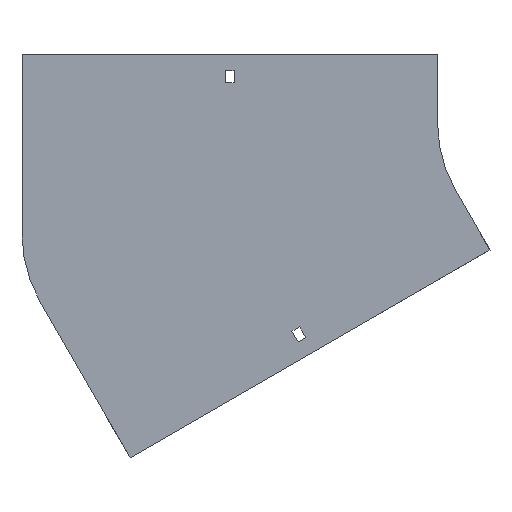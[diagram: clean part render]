
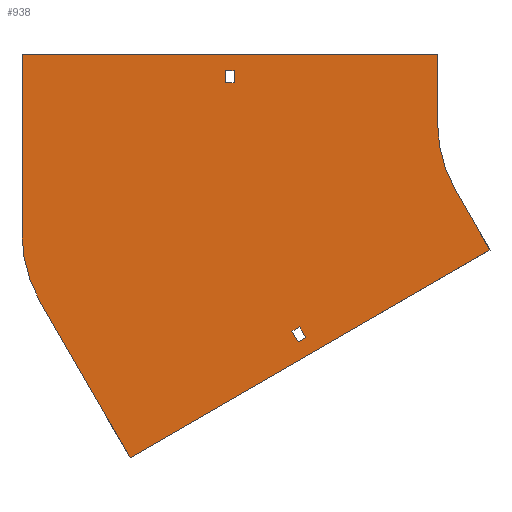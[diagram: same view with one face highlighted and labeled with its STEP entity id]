
A CAD part, front view. The second image highlights one B-rep face of the part: STEP entity #938.
In plain terms, the highlighted planar face has unit normal (0, -1, 0).
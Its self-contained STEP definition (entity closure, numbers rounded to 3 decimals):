
#3 = ORIENTED_EDGE ( 'NONE', *, *, #321, .T. ) ;
#10 = VECTOR ( 'NONE', #705, 1000. ) ;
#49 = DIRECTION ( 'NONE',  ( -1., 0., 0. ) ) ;
#54 = CARTESIAN_POINT ( 'NONE',  ( -202.053, 0., -160.534 ) ) ;
#67 = ORIENTED_EDGE ( 'NONE', *, *, #1046, .F. ) ;
#69 = LINE ( 'NONE', #388, #1867 ) ;
#70 = CARTESIAN_POINT ( 'NONE',  ( -100., 0., 50. ) ) ;
#71 = VECTOR ( 'NONE', #188, 1000. ) ;
#73 = EDGE_CURVE ( 'NONE', #313, #1581, #506, .T. ) ;
#75 = DIRECTION ( 'NONE',  ( 0.866, 0., 0.5 ) ) ;
#78 = PLANE ( 'NONE',  #1946 ) ;
#82 = CARTESIAN_POINT ( 'NONE',  ( -200.924, 0., -149.49 ) ) ;
#83 = CARTESIAN_POINT ( 'NONE',  ( -248.75, 0., 38. ) ) ;
#89 = VERTEX_POINT ( 'NONE', #1771 ) ;
#106 = LINE ( 'NONE', #1290, #515 ) ;
#107 = LINE ( 'NONE', #1327, #1535 ) ;
#116 = DIRECTION ( 'NONE',  ( 1., 0., 0. ) ) ;
#134 = DIRECTION ( 'NONE',  ( 0.5, 0., -0.866 ) ) ;
#146 = CARTESIAN_POINT ( 'NONE',  ( -206.553, 0., -152.74 ) ) ;
#154 = EDGE_CURVE ( 'NONE', #817, #1584, #1075, .T. ) ;
#162 = VERTEX_POINT ( 'NONE', #214 ) ;
#164 = EDGE_LOOP ( 'NONE', ( #628, #798, #1325, #1123, #1838, #1211, #67, #845 ) ) ;
#174 = CARTESIAN_POINT ( 'NONE',  ( -404., 0., -81.457 ) ) ;
#177 = DIRECTION ( 'NONE',  ( -0.866, 0., -0.5 ) ) ;
#181 = LINE ( 'NONE', #939, #1254 ) ;
#188 = DIRECTION ( 'NONE',  ( -0.5, 0., 0.866 ) ) ;
#214 = CARTESIAN_POINT ( 'NONE',  ( -202.053, 0., -160.534 ) ) ;
#223 = FACE_BOUND ( 'NONE', #585, .T. ) ;
#265 = CARTESIAN_POINT ( 'NONE',  ( -248.75, 0., 29. ) ) ;
#273 = CARTESIAN_POINT ( 'NONE',  ( -206.553, 0., -152.74 ) ) ;
#302 = ORIENTED_EDGE ( 'NONE', *, *, #1224, .T. ) ;
#313 = VERTEX_POINT ( 'NONE', #1573 ) ;
#318 = ORIENTED_EDGE ( 'NONE', *, *, #1398, .F. ) ;
#321 = EDGE_CURVE ( 'NONE', #1584, #368, #69, .T. ) ;
#325 = LINE ( 'NONE', #146, #440 ) ;
#355 = EDGE_CURVE ( 'NONE', #712, #1295, #325, .T. ) ;
#368 = VERTEX_POINT ( 'NONE', #481 ) ;
#388 = CARTESIAN_POINT ( 'NONE',  ( -255.25, 0., 29. ) ) ;
#402 = DIRECTION ( 'NONE',  ( -0.866, 0., -0.5 ) ) ;
#415 = VECTOR ( 'NONE', #116, 1000. ) ;
#440 = VECTOR ( 'NONE', #177, 1000. ) ;
#443 = DIRECTION ( 'NONE',  ( 0., -1., 0. ) ) ;
#480 = VERTEX_POINT ( 'NONE', #1417 ) ;
#481 = CARTESIAN_POINT ( 'NONE',  ( -255.25, 0., 38. ) ) ;
#487 = CARTESIAN_POINT ( 'NONE',  ( -255.25, 0., 29. ) ) ;
#495 = ORIENTED_EDGE ( 'NONE', *, *, #1929, .T. ) ;
#506 = CIRCLE ( 'NONE', #1604, 100. ) ;
#515 = VECTOR ( 'NONE', #831, 1000. ) ;
#520 = VERTEX_POINT ( 'NONE', #1261 ) ;
#534 = DIRECTION ( 'NONE',  ( 0., 0., 1. ) ) ;
#536 = EDGE_CURVE ( 'NONE', #1692, #712, #1869, .T. ) ;
#539 = CARTESIAN_POINT ( 'NONE',  ( -206.553, 0., -152.74 ) ) ;
#552 = DIRECTION ( 'NONE',  ( 0., 0., -1. ) ) ;
#559 = DIRECTION ( 'NONE',  ( 0.5, 0., -0.866 ) ) ;
#579 = DIRECTION ( 'NONE',  ( 0., 0., 1. ) ) ;
#585 = EDGE_LOOP ( 'NONE', ( #1701, #318, #1618, #1146 ) ) ;
#628 = ORIENTED_EDGE ( 'NONE', *, *, #1318, .F. ) ;
#664 = DIRECTION ( 'NONE',  ( 0., 0., -1. ) ) ;
#673 = DIRECTION ( 'NONE',  ( 0., -1., 0. ) ) ;
#676 = CARTESIAN_POINT ( 'NONE',  ( -248.75, 0., 29. ) ) ;
#693 = VERTEX_POINT ( 'NONE', #1016 ) ;
#696 = LINE ( 'NONE', #1298, #415 ) ;
#703 = ORIENTED_EDGE ( 'NONE', *, *, #154, .T. ) ;
#705 = DIRECTION ( 'NONE',  ( 1., 0., 0. ) ) ;
#712 = VERTEX_POINT ( 'NONE', #1308 ) ;
#723 = LINE ( 'NONE', #273, #1801 ) ;
#758 = VECTOR ( 'NONE', #75, 1000. ) ;
#778 = EDGE_CURVE ( 'NONE', #520, #480, #1606, .T. ) ;
#781 = VECTOR ( 'NONE', #552, 1000. ) ;
#783 = EDGE_CURVE ( 'NONE', #480, #839, #107, .T. ) ;
#798 = ORIENTED_EDGE ( 'NONE', *, *, #1760, .F. ) ;
#817 = VERTEX_POINT ( 'NONE', #265 ) ;
#831 = DIRECTION ( 'NONE',  ( -0.5, 0., 0.866 ) ) ;
#839 = VERTEX_POINT ( 'NONE', #859 ) ;
#845 = ORIENTED_EDGE ( 'NONE', *, *, #1623, .F. ) ;
#859 = CARTESIAN_POINT ( 'NONE',  ( -324.874, 0., -245.301 ) ) ;
#861 = VECTOR ( 'NONE', #49, 1000. ) ;
#938 = ADVANCED_FACE ( 'NONE', ( #1109, #1572, #223 ), #78, .T. ) ;
#939 = CARTESIAN_POINT ( 'NONE',  ( -404., 0., -81.457 ) ) ;
#1016 = CARTESIAN_POINT ( 'NONE',  ( -100., 0., 50. ) ) ;
#1040 = DIRECTION ( 'NONE',  ( 0., 0., 1. ) ) ;
#1046 = EDGE_CURVE ( 'NONE', #89, #520, #1773, .T. ) ;
#1075 = LINE ( 'NONE', #1865, #861 ) ;
#1109 = FACE_BOUND ( 'NONE', #1233, .T. ) ;
#1122 = LINE ( 'NONE', #70, #1438 ) ;
#1123 = ORIENTED_EDGE ( 'NONE', *, *, #1286, .F. ) ;
#1143 = AXIS2_PLACEMENT_3D ( 'NONE', #1339, #443, #1368 ) ;
#1146 = ORIENTED_EDGE ( 'NONE', *, *, #536, .F. ) ;
#1163 = CARTESIAN_POINT ( 'NONE',  ( 0., 0., 0. ) ) ;
#1164 = EDGE_CURVE ( 'NONE', #162, #1692, #1401, .T. ) ;
#1202 = VERTEX_POINT ( 'NONE', #83 ) ;
#1211 = ORIENTED_EDGE ( 'NONE', *, *, #778, .F. ) ;
#1224 = EDGE_CURVE ( 'NONE', #368, #1202, #1578, .T. ) ;
#1233 = EDGE_LOOP ( 'NONE', ( #3, #302, #495, #703 ) ) ;
#1254 = VECTOR ( 'NONE', #1040, 1000. ) ;
#1261 = CARTESIAN_POINT ( 'NONE',  ( -86.603, 0., -50. ) ) ;
#1274 = DIRECTION ( 'NONE',  ( 0., 0., -1. ) ) ;
#1286 = EDGE_CURVE ( 'NONE', #839, #313, #106, .T. ) ;
#1290 = CARTESIAN_POINT ( 'NONE',  ( -324.874, 0., -245.301 ) ) ;
#1295 = VERTEX_POINT ( 'NONE', #539 ) ;
#1298 = CARTESIAN_POINT ( 'NONE',  ( -404., 0., 50. ) ) ;
#1308 = CARTESIAN_POINT ( 'NONE',  ( -200.924, 0., -149.49 ) ) ;
#1318 = EDGE_CURVE ( 'NONE', #1462, #693, #696, .T. ) ;
#1325 = ORIENTED_EDGE ( 'NONE', *, *, #73, .F. ) ;
#1327 = CARTESIAN_POINT ( 'NONE',  ( -61.603, 0., -93.301 ) ) ;
#1339 = CARTESIAN_POINT ( 'NONE',  ( 0., 0., 0. ) ) ;
#1340 = DIRECTION ( 'NONE',  ( 0., 1., 0. ) ) ;
#1362 = CARTESIAN_POINT ( 'NONE',  ( -404., 0., 50. ) ) ;
#1368 = DIRECTION ( 'NONE',  ( 0., 0., -1. ) ) ;
#1398 = EDGE_CURVE ( 'NONE', #1295, #162, #723, .T. ) ;
#1401 = LINE ( 'NONE', #54, #758 ) ;
#1417 = CARTESIAN_POINT ( 'NONE',  ( -61.603, 0., -93.301 ) ) ;
#1438 = VECTOR ( 'NONE', #664, 1000. ) ;
#1443 = CARTESIAN_POINT ( 'NONE',  ( -255.25, 0., 38. ) ) ;
#1462 = VERTEX_POINT ( 'NONE', #1362 ) ;
#1535 = VECTOR ( 'NONE', #402, 1000. ) ;
#1572 = FACE_OUTER_BOUND ( 'NONE', #164, .T. ) ;
#1573 = CARTESIAN_POINT ( 'NONE',  ( -390.603, 0., -131.457 ) ) ;
#1578 = LINE ( 'NONE', #1443, #10 ) ;
#1581 = VERTEX_POINT ( 'NONE', #174 ) ;
#1584 = VERTEX_POINT ( 'NONE', #487 ) ;
#1604 = AXIS2_PLACEMENT_3D ( 'NONE', #1621, #1340, #579 ) ;
#1606 = LINE ( 'NONE', #1910, #1858 ) ;
#1618 = ORIENTED_EDGE ( 'NONE', *, *, #355, .F. ) ;
#1621 = CARTESIAN_POINT ( 'NONE',  ( -304., 0., -81.457 ) ) ;
#1623 = EDGE_CURVE ( 'NONE', #693, #89, #1122, .T. ) ;
#1692 = VERTEX_POINT ( 'NONE', #1694 ) ;
#1694 = CARTESIAN_POINT ( 'NONE',  ( -196.424, 0., -157.284 ) ) ;
#1701 = ORIENTED_EDGE ( 'NONE', *, *, #1164, .F. ) ;
#1760 = EDGE_CURVE ( 'NONE', #1581, #1462, #181, .T. ) ;
#1771 = CARTESIAN_POINT ( 'NONE',  ( -100., 0., 0. ) ) ;
#1773 = CIRCLE ( 'NONE', #1143, 100. ) ;
#1801 = VECTOR ( 'NONE', #134, 1000. ) ;
#1838 = ORIENTED_EDGE ( 'NONE', *, *, #783, .F. ) ;
#1858 = VECTOR ( 'NONE', #559, 1000. ) ;
#1865 = CARTESIAN_POINT ( 'NONE',  ( -255.25, 0., 29. ) ) ;
#1867 = VECTOR ( 'NONE', #534, 1000. ) ;
#1869 = LINE ( 'NONE', #82, #71 ) ;
#1894 = LINE ( 'NONE', #676, #781 ) ;
#1910 = CARTESIAN_POINT ( 'NONE',  ( -86.603, 0., -50. ) ) ;
#1929 = EDGE_CURVE ( 'NONE', #1202, #817, #1894, .T. ) ;
#1946 = AXIS2_PLACEMENT_3D ( 'NONE', #1163, #673, #1274 ) ;
